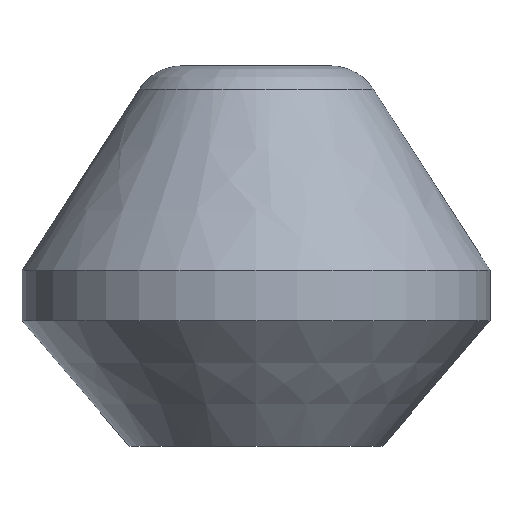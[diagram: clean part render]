
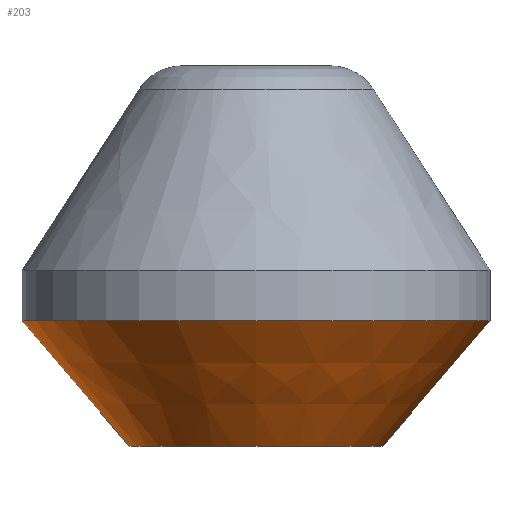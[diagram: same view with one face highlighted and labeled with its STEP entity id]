
A CAD part, front view. The second image highlights one B-rep face of the part: STEP entity #203.
In plain terms, the highlighted free-form (B-spline) face has degree [5, 3] with [11, 4] control points.
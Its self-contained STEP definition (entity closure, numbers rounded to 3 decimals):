
#21=LINE('',#1083,#29);
#22=LINE('',#1084,#30);
#29=VECTOR('',#263,10.);
#30=VECTOR('',#264,10.);
#42=B_SPLINE_SURFACE_WITH_KNOTS('',5,3,((#1039,#1040,#1041,#1042),(#1043,#1044,#1045,#1046),(#1047,#1048,#1049,#1050),(#1051,#1052,#1053,#1054),(#1055,#1056,#1057,#1058),(#1059,#1060,#1061,#1062),(#1063,#1064,#1065,#1066),(#1067,#1068,#1069,#1070),(#1071,#1072,#1073,#1074),(#1075,#1076,#1077,#1078),(#1079,#1080,#1081,#1082)),.UNSPECIFIED.,.F.,.F.,.F.,(6,1,1,1,1,1,6),(4,4),(4.,5.,6.,7.,8.,9.,10.),(0.,1.),.UNSPECIFIED.);
#64=FACE_OUTER_BOUND('',#79,.T.);
#79=EDGE_LOOP('',(#180,#181,#182,#183,#184));
#85=CIRCLE('',#220,2.501);
#86=CIRCLE('',#221,2.501);
#90=CIRCLE('',#225,4.616);
#101=VERTEX_POINT('',#619);
#102=VERTEX_POINT('',#621);
#103=VERTEX_POINT('',#656);
#106=VERTEX_POINT('',#1011);
#107=VERTEX_POINT('',#1013);
#120=EDGE_CURVE('',#101,#102,#85,.T.);
#123=EDGE_CURVE('',#103,#101,#86,.T.);
#130=EDGE_CURVE('',#106,#107,#90,.T.);
#133=EDGE_CURVE('',#106,#102,#21,.T.);
#134=EDGE_CURVE('',#107,#103,#22,.T.);
#180=ORIENTED_EDGE('',*,*,#133,.T.);
#181=ORIENTED_EDGE('',*,*,#120,.F.);
#182=ORIENTED_EDGE('',*,*,#123,.F.);
#183=ORIENTED_EDGE('',*,*,#134,.F.);
#184=ORIENTED_EDGE('',*,*,#130,.F.);
#203=ADVANCED_FACE('',(#64),#42,.T.);
#220=AXIS2_PLACEMENT_3D('',#622,#244,#245);
#221=AXIS2_PLACEMENT_3D('',#658,#248,#249);
#225=AXIS2_PLACEMENT_3D('',#1014,#258,#259);
#244=DIRECTION('center_axis',(0.,0.,-1.));
#245=DIRECTION('ref_axis',(-1.,0.,0.));
#248=DIRECTION('center_axis',(0.,0.,-1.));
#249=DIRECTION('ref_axis',(0.,-1.,0.));
#258=DIRECTION('center_axis',(0.,0.,1.));
#259=DIRECTION('ref_axis',(1.,0.,0.));
#263=DIRECTION('',(0.65,0.,-0.76));
#264=DIRECTION('',(-0.65,0.,-0.76));
#619=CARTESIAN_POINT('',(-209.378,-99.502,-24.618));
#621=CARTESIAN_POINT('',(-211.879,-97.002,-24.618));
#622=CARTESIAN_POINT('Origin',(-209.378,-97.002,-24.618));
#656=CARTESIAN_POINT('',(-206.878,-97.002,-24.618));
#658=CARTESIAN_POINT('Origin',(-209.378,-97.002,-24.618));
#1011=CARTESIAN_POINT('',(-213.994,-97.002,-22.145));
#1013=CARTESIAN_POINT('',(-204.762,-97.002,-22.145));
#1014=CARTESIAN_POINT('Origin',(-209.378,-97.002,-22.145));
#1039=CARTESIAN_POINT('Ctrl Pts',(-204.762,-97.002,-22.145));
#1040=CARTESIAN_POINT('Ctrl Pts',(-205.467,-97.002,-22.969));
#1041=CARTESIAN_POINT('Ctrl Pts',(-206.172,-97.002,-23.794));
#1042=CARTESIAN_POINT('Ctrl Pts',(-206.878,-97.002,-24.618));
#1043=CARTESIAN_POINT('Ctrl Pts',(-204.762,-97.485,-22.145));
#1044=CARTESIAN_POINT('Ctrl Pts',(-205.467,-97.411,-22.969));
#1045=CARTESIAN_POINT('Ctrl Pts',(-206.172,-97.337,-23.794));
#1046=CARTESIAN_POINT('Ctrl Pts',(-206.878,-97.263,-24.618));
#1047=CARTESIAN_POINT('Ctrl Pts',(-204.889,-98.452,-22.145));
#1048=CARTESIAN_POINT('Ctrl Pts',(-205.574,-98.23,-22.969));
#1049=CARTESIAN_POINT('Ctrl Pts',(-206.26,-98.009,-23.794));
#1050=CARTESIAN_POINT('Ctrl Pts',(-206.946,-97.787,-24.618));
#1051=CARTESIAN_POINT('Ctrl Pts',(-205.458,-99.836,-22.145));
#1052=CARTESIAN_POINT('Ctrl Pts',(-206.057,-99.403,-22.969));
#1053=CARTESIAN_POINT('Ctrl Pts',(-206.656,-98.97,-23.794));
#1054=CARTESIAN_POINT('Ctrl Pts',(-207.255,-98.537,-24.618));
#1055=CARTESIAN_POINT('Ctrl Pts',(-206.906,-101.284,-22.145));
#1056=CARTESIAN_POINT('Ctrl Pts',(-207.284,-100.629,-22.969));
#1057=CARTESIAN_POINT('Ctrl Pts',(-207.661,-99.975,-23.794));
#1058=CARTESIAN_POINT('Ctrl Pts',(-208.039,-99.321,-24.618));
#1059=CARTESIAN_POINT('Ctrl Pts',(-209.378,-101.946,-22.145));
#1060=CARTESIAN_POINT('Ctrl Pts',(-209.378,-101.191,-22.969));
#1061=CARTESIAN_POINT('Ctrl Pts',(-209.378,-100.435,-23.794));
#1062=CARTESIAN_POINT('Ctrl Pts',(-209.378,-99.68,-24.618));
#1063=CARTESIAN_POINT('Ctrl Pts',(-211.85,-101.284,-22.145));
#1064=CARTESIAN_POINT('Ctrl Pts',(-211.473,-100.629,-22.969));
#1065=CARTESIAN_POINT('Ctrl Pts',(-211.095,-99.975,-23.794));
#1066=CARTESIAN_POINT('Ctrl Pts',(-210.717,-99.321,-24.618));
#1067=CARTESIAN_POINT('Ctrl Pts',(-213.298,-99.836,-22.145));
#1068=CARTESIAN_POINT('Ctrl Pts',(-212.699,-99.403,-22.969));
#1069=CARTESIAN_POINT('Ctrl Pts',(-212.101,-98.97,-23.794));
#1070=CARTESIAN_POINT('Ctrl Pts',(-211.502,-98.537,-24.618));
#1071=CARTESIAN_POINT('Ctrl Pts',(-213.868,-98.452,-22.145));
#1072=CARTESIAN_POINT('Ctrl Pts',(-213.182,-98.23,-22.969));
#1073=CARTESIAN_POINT('Ctrl Pts',(-212.496,-98.009,-23.794));
#1074=CARTESIAN_POINT('Ctrl Pts',(-211.81,-97.787,-24.618));
#1075=CARTESIAN_POINT('Ctrl Pts',(-213.994,-97.485,-22.145));
#1076=CARTESIAN_POINT('Ctrl Pts',(-213.289,-97.411,-22.969));
#1077=CARTESIAN_POINT('Ctrl Pts',(-212.584,-97.337,-23.794));
#1078=CARTESIAN_POINT('Ctrl Pts',(-211.879,-97.263,-24.618));
#1079=CARTESIAN_POINT('Ctrl Pts',(-213.994,-97.002,-22.145));
#1080=CARTESIAN_POINT('Ctrl Pts',(-213.289,-97.002,-22.969));
#1081=CARTESIAN_POINT('Ctrl Pts',(-212.584,-97.002,-23.794));
#1082=CARTESIAN_POINT('Ctrl Pts',(-211.879,-97.002,-24.618));
#1083=CARTESIAN_POINT('',(-213.994,-97.002,-22.145));
#1084=CARTESIAN_POINT('',(-204.762,-97.002,-22.145));
